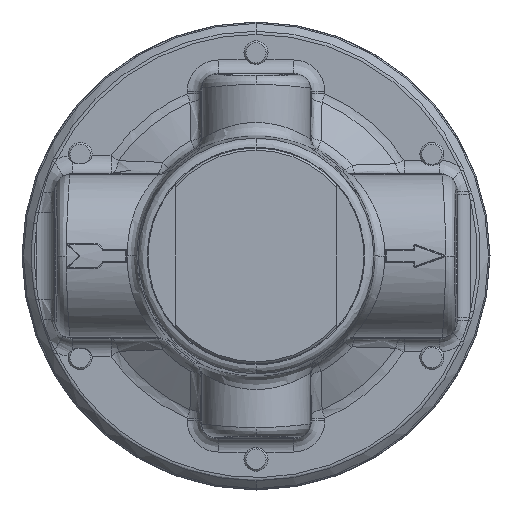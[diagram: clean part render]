
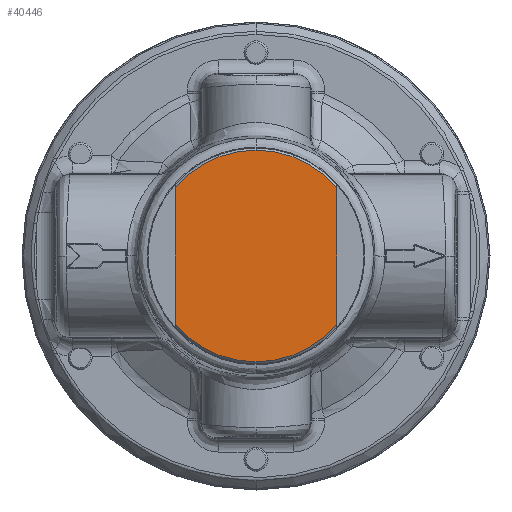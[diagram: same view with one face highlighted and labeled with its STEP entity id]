
A CAD part, front view. The second image highlights one B-rep face of the part: STEP entity #40446.
In plain terms, the highlighted planar face has unit normal (0, -1, 0).
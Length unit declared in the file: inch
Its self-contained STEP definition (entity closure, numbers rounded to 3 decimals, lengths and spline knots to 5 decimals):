
#2434 = CARTESIAN_POINT ( 'NONE',  ( -0.55875, -1.906, 0.47366 ) ) ;
#2859 = CARTESIAN_POINT ( 'NONE',  ( 0.55875, -1.906, 0.47366 ) ) ;
#2913 = CARTESIAN_POINT ( 'NONE',  ( 0., -1.906, 0.7325 ) ) ;
#3821 = LINE ( 'NONE', #3822, #31128 ) ;
#3822 = CARTESIAN_POINT ( 'NONE',  ( -0.55875, -1.906, -0.7475 ) ) ;
#3827 = CARTESIAN_POINT ( 'NONE',  ( 0., -1.906, 0. ) ) ;
#3828 = DIRECTION ( 'NONE',  ( 0., 1., 0. ) ) ;
#3830 = DIRECTION ( 'NONE',  ( 0., 0., 1. ) ) ;
#3832 = CARTESIAN_POINT ( 'NONE',  ( 0.55875, -1.906, -0.7475 ) ) ;
#3833 = DIRECTION ( 'NONE',  ( 0., 0., -1. ) ) ;
#3835 = LINE ( 'NONE', #3832, #31126 ) ;
#3836 = CARTESIAN_POINT ( 'NONE',  ( 0., -1.906, 0. ) ) ;
#3837 = DIRECTION ( 'NONE',  ( 0., 1., 0. ) ) ;
#3838 = DIRECTION ( 'NONE',  ( 0., 0., 1. ) ) ;
#3839 = DIRECTION ( 'NONE',  ( 0., 0., -1. ) ) ;
#4299 = AXIS2_PLACEMENT_3D ( 'NONE', #20658, #20671, #20673 ) ;
#10127 = CARTESIAN_POINT ( 'NONE',  ( 0.55875, -1.906, -0.47366 ) ) ;
#10215 = CARTESIAN_POINT ( 'NONE',  ( -0.55875, -1.906, -0.47366 ) ) ;
#12889 = CARTESIAN_POINT ( 'NONE',  ( 0., -1.906, 0. ) ) ;
#12890 = DIRECTION ( 'NONE',  ( 0., 1., 0. ) ) ;
#12891 = DIRECTION ( 'NONE',  ( 0., 0., 1. ) ) ;
#14055 = VERTEX_POINT ( 'NONE', #10127 ) ;
#14143 = VERTEX_POINT ( 'NONE', #10215 ) ;
#18420 = EDGE_CURVE ( 'NONE', #26291, #26653, #39766, .T. ) ;
#20658 = CARTESIAN_POINT ( 'NONE',  ( 0., -1.906, 0. ) ) ;
#20663 = FACE_OUTER_BOUND ( 'NONE', #23301, .T. ) ;
#20665 = PLANE ( 'NONE',  #4299 ) ;
#20671 = DIRECTION ( 'NONE',  ( 0., -1., 0. ) ) ;
#20673 = DIRECTION ( 'NONE',  ( 1., 0., 0. ) ) ;
#23301 = EDGE_LOOP ( 'NONE', ( #23639, #23587, #23657, #23621, #23675 ) ) ;
#23587 = ORIENTED_EDGE ( 'NONE', *, *, #28364, .F. ) ;
#23621 = ORIENTED_EDGE ( 'NONE', *, *, #28362, .T. ) ;
#23639 = ORIENTED_EDGE ( 'NONE', *, *, #28365, .F. ) ;
#23657 = ORIENTED_EDGE ( 'NONE', *, *, #18420, .F. ) ;
#23675 = ORIENTED_EDGE ( 'NONE', *, *, #28359, .F. ) ;
#26291 = VERTEX_POINT ( 'NONE', #2434 ) ;
#26623 = VERTEX_POINT ( 'NONE', #2859 ) ;
#26653 = VERTEX_POINT ( 'NONE', #2913 ) ;
#28359 = EDGE_CURVE ( 'NONE', #14055, #14143, #31130, .T. ) ;
#28362 = EDGE_CURVE ( 'NONE', #26291, #14143, #3821, .T. ) ;
#28364 = EDGE_CURVE ( 'NONE', #26653, #26623, #31142, .T. ) ;
#28365 = EDGE_CURVE ( 'NONE', #26623, #14055, #3835, .T. ) ;
#31124 = AXIS2_PLACEMENT_3D ( 'NONE', #3836, #3837, #3838 ) ;
#31126 = VECTOR ( 'NONE', #3839, 39.37008 ) ;
#31127 = AXIS2_PLACEMENT_3D ( 'NONE', #3827, #3828, #3830 ) ;
#31128 = VECTOR ( 'NONE', #3833, 39.37008 ) ;
#31130 = CIRCLE ( 'NONE', #31127, 0.7325 ) ;
#31142 = CIRCLE ( 'NONE', #31124, 0.7325 ) ;
#39611 = AXIS2_PLACEMENT_3D ( 'NONE', #12889, #12890, #12891 ) ;
#39766 = CIRCLE ( 'NONE', #39611, 0.7325 ) ;
#40446 = ADVANCED_FACE ( 'NONE', ( #20663 ), #20665, .T. ) ;
